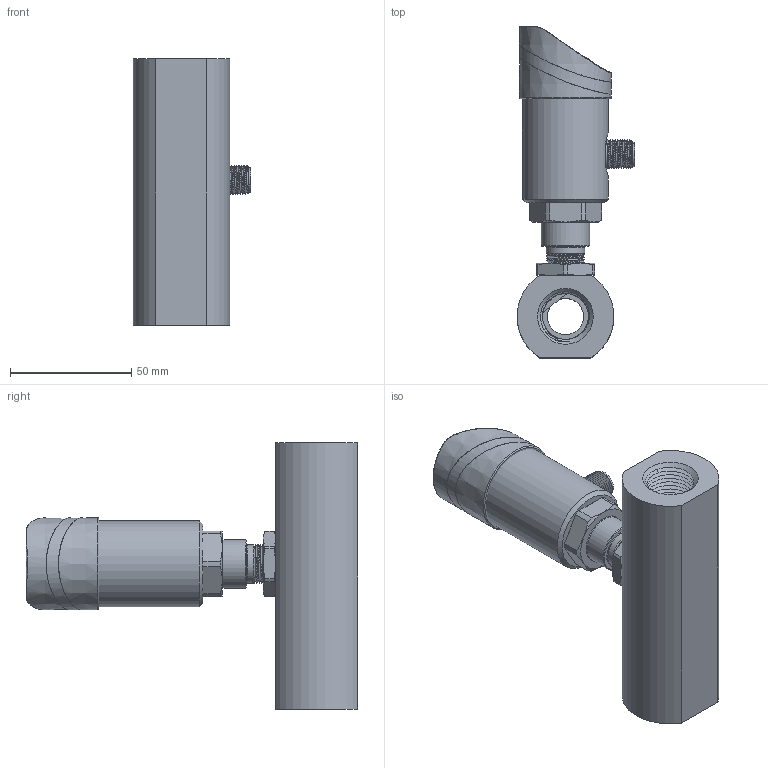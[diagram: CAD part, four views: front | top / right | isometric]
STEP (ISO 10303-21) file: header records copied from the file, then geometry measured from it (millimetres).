
FILE_DESCRIPTION( (''), '2;1');
FILE_NAME( 'QTKE_DN15_female-thread.step', '2024-10-15T09:07:34+08:00', (''), (''), '', '', '');
FILE_SCHEMA (('AUTOMOTIVE_DESIGN { 1 0 10303 214 3 1 1 1 }'));
Length unit declared in the file: millimetre
Products named in the file (1): QTKE DN15_female-thread
Bounding box: 48.7 x 137 x 110 mm (x, y, z)
Volume: 167669.2 mm3; surface area: 50351.3 mm2
Topology: 5 solids, 6 shells, 731 faces, 1899 edges, 1238 vertices
Faces by surface type: plane 268, extrusion 141, cylinder 132, bspline 76, cone 71, torus 32, sphere 11
Full cylindrical faces by diameter (mm): 1.689 x1, 2.7 x3, 12 x1, 15 x2, 15.9 x1, 16.5 x1, 19 x2, 20 x1, 23 x3, 26 x5, 35.5 x1, 37.001 x1
Entity records: 34996 total; most frequent: CARTESIAN_POINT 17018, ORIENTED_EDGE 3602, DIRECTION 2769, EDGE_CURVE 1801, VERTEX_POINT 1199, VECTOR 961, AXIS2_PLACEMENT_3D 904, EDGE_LOOP 850
